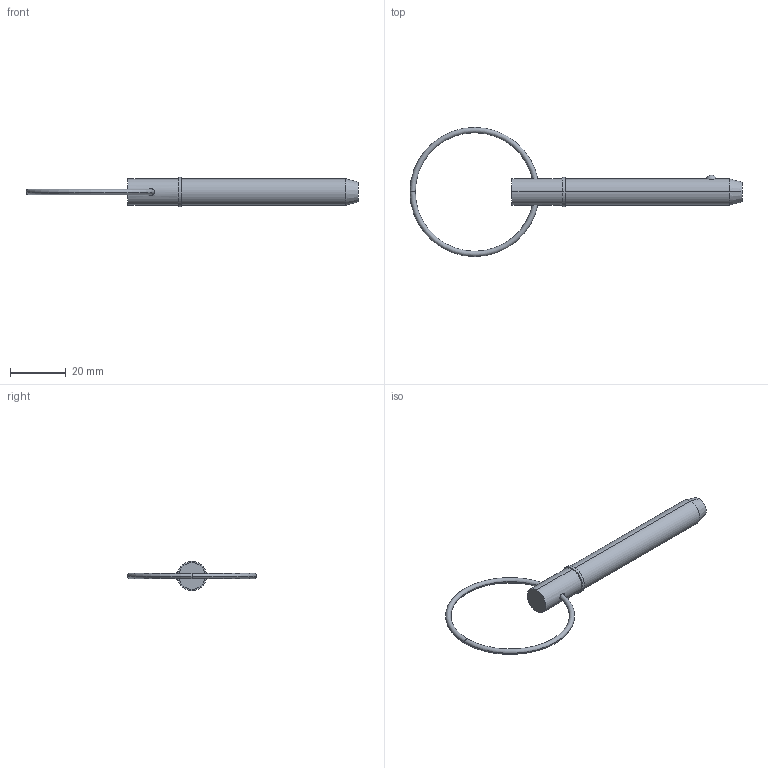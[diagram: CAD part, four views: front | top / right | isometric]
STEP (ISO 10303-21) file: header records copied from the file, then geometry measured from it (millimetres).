
FILE_DESCRIPTION (( 'STEP AP203' ), '1' );
FILE_NAME ('33014.W3720.step', '2024-11-04T08:26:32', ( '' ), ( '' ), 'SwSTEP 2.0', 'SolidWorks 2019', '' );
FILE_SCHEMA (( 'CONFIG_CONTROL_DESIGN' ));
Length unit declared in the file: millimetre
Products named in the file (3): Part2_33014.W3720; 33014.W3720; Part1_33014.W3720
Assembly tree (2 placements, depth 2):
  33014.W3720
    Part1_33014.W3720
    Part2_33014.W3720
Bounding box: 119.13 x 46.36 x 10.48 mm (x, y, z)
Volume: 6193.6 mm3; surface area: 3507.5 mm2
Topology: 2 solids, 2 shells, 22 faces, 43 edges, 26 vertices
Faces by surface type: torus 8, cylinder 6, plane 4, sphere 2, cone 2
Entity records: 1005 total; most frequent: CARTESIAN_POINT 228, DIRECTION 120, ORIENTED_EDGE 86, AXIS2_PLACEMENT_3D 56, EDGE_CURVE 43, CIRCLE 29, EDGE_LOOP 27, VERTEX_POINT 26
